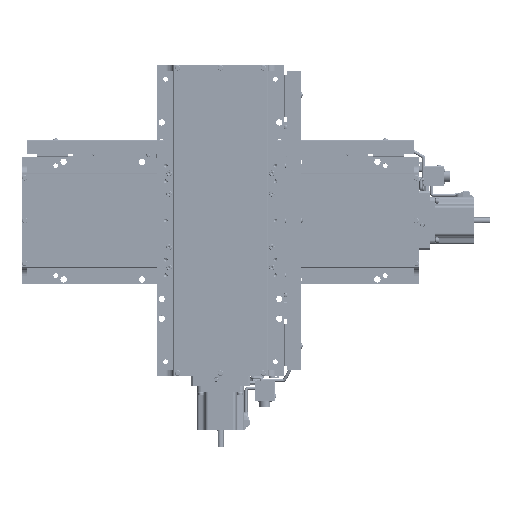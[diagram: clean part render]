
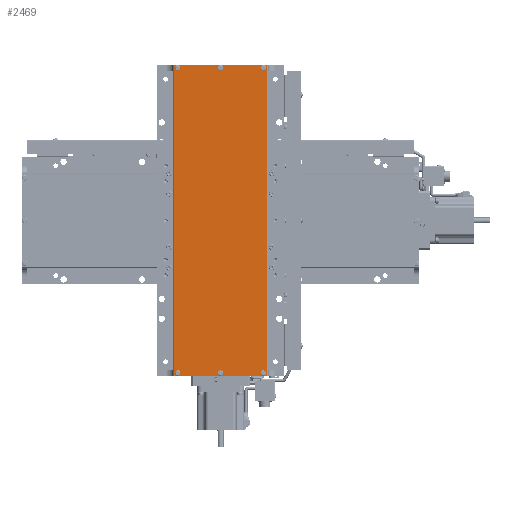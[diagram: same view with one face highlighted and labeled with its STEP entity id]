
A CAD part, top view. The second image highlights one B-rep face of the part: STEP entity #2469.
In plain terms, the highlighted planar face has unit normal (0, 0, 1).
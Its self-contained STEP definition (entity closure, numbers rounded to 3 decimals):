
#2469=ADVANCED_FACE('',(#28541,#28542,#28543,#28544,#28545,#28546,#28547),#28540,.T.);
#28540=PLANE('',#71487);
#28541=FACE_OUTER_BOUND('',#71488,.T.);
#28542=FACE_BOUND('',#71489,.T.);
#28543=FACE_BOUND('',#71490,.T.);
#28544=FACE_BOUND('',#71491,.T.);
#28545=FACE_BOUND('',#71492,.T.);
#28546=FACE_BOUND('',#71493,.T.);
#28547=FACE_BOUND('',#71494,.T.);
#71484=CARTESIAN_POINT('',(69.5,208.,125.5));
#71485=DIRECTION('',(0.,0.,1.));
#71486=DIRECTION('',(-1.,0.,0.));
#71487=AXIS2_PLACEMENT_3D('',#71484,#71485,#71486);
#71488=EDGE_LOOP('',(#102121,#102122,#102123,#102124,#102125,#102126));
#71489=EDGE_LOOP('',(#102127,#102128));
#71490=EDGE_LOOP('',(#102129,#102130));
#71491=EDGE_LOOP('',(#102131,#102132));
#71492=EDGE_LOOP('',(#102133,#102134));
#71493=EDGE_LOOP('',(#102135,#102136));
#71494=EDGE_LOOP('',(#102137,#102138));
#102121=ORIENTED_EDGE('',*,*,#121602,.T.);
#102122=ORIENTED_EDGE('',*,*,#121652,.T.);
#102123=ORIENTED_EDGE('',*,*,#121618,.T.);
#102124=ORIENTED_EDGE('',*,*,#121653,.T.);
#102125=ORIENTED_EDGE('',*,*,#121636,.F.);
#102126=ORIENTED_EDGE('',*,*,#121654,.T.);
#102127=ORIENTED_EDGE('',*,*,#121655,.F.);
#102128=ORIENTED_EDGE('',*,*,#121656,.F.);
#102129=ORIENTED_EDGE('',*,*,#121657,.F.);
#102130=ORIENTED_EDGE('',*,*,#121658,.F.);
#102131=ORIENTED_EDGE('',*,*,#121659,.F.);
#102132=ORIENTED_EDGE('',*,*,#121660,.F.);
#102133=ORIENTED_EDGE('',*,*,#121661,.F.);
#102134=ORIENTED_EDGE('',*,*,#121662,.F.);
#102135=ORIENTED_EDGE('',*,*,#121663,.F.);
#102136=ORIENTED_EDGE('',*,*,#121664,.F.);
#102137=ORIENTED_EDGE('',*,*,#121665,.F.);
#102138=ORIENTED_EDGE('',*,*,#121666,.F.);
#121602=EDGE_CURVE('',#169450,#169443,#169451,.T.);
#121618=EDGE_CURVE('',#169498,#169552,#169559,.T.);
#121636=EDGE_CURVE('',#169678,#169685,#169686,.T.);
#121652=EDGE_CURVE('',#169443,#169498,#169796,.T.);
#121653=EDGE_CURVE('',#169552,#169685,#169802,.T.);
#121654=EDGE_CURVE('',#169678,#169450,#169808,.T.);
#121655=EDGE_CURVE('',#169814,#169815,#169816,.T.);
#121656=EDGE_CURVE('',#169815,#169814,#169822,.T.);
#121657=EDGE_CURVE('',#169828,#169829,#169830,.T.);
#121658=EDGE_CURVE('',#169829,#169828,#169836,.T.);
#121659=EDGE_CURVE('',#169842,#169843,#169844,.T.);
#121660=EDGE_CURVE('',#169843,#169842,#169850,.T.);
#121661=EDGE_CURVE('',#169856,#169857,#169858,.T.);
#121662=EDGE_CURVE('',#169857,#169856,#169864,.T.);
#121663=EDGE_CURVE('',#169870,#169871,#169872,.T.);
#121664=EDGE_CURVE('',#169871,#169870,#169878,.T.);
#121665=EDGE_CURVE('',#169884,#169885,#169886,.T.);
#121666=EDGE_CURVE('',#169885,#169884,#169892,.T.);
#169443=VERTEX_POINT('',#236984);
#169450=VERTEX_POINT('',#236988);
#169451=LINE('',#236989,#236990);
#169498=VERTEX_POINT('',#237020);
#169552=VERTEX_POINT('',#237050);
#169559=LINE('',#237055,#237056);
#169678=VERTEX_POINT('',#237124);
#169685=VERTEX_POINT('',#237129);
#169686=LINE('',#237130,#237131);
#169796=LINE('',#237197,#237198);
#169802=LINE('',#237200,#237201);
#169808=LINE('',#237203,#237204);
#169814=VERTEX_POINT('',#237206);
#169815=VERTEX_POINT('',#237207);
#169816=CIRCLE('',#237211,3.495);
#169822=CIRCLE('',#237215,3.495);
#169828=VERTEX_POINT('',#237216);
#169829=VERTEX_POINT('',#237217);
#169830=CIRCLE('',#237221,3.495);
#169836=CIRCLE('',#237225,3.495);
#169842=VERTEX_POINT('',#237226);
#169843=VERTEX_POINT('',#237227);
#169844=CIRCLE('',#237231,3.495);
#169850=CIRCLE('',#237235,3.495);
#169856=VERTEX_POINT('',#237236);
#169857=VERTEX_POINT('',#237237);
#169858=CIRCLE('',#237241,3.495);
#169864=CIRCLE('',#237245,3.495);
#169870=VERTEX_POINT('',#237246);
#169871=VERTEX_POINT('',#237247);
#169872=CIRCLE('',#237251,3.495);
#169878=CIRCLE('',#237255,3.495);
#169884=VERTEX_POINT('',#237256);
#169885=VERTEX_POINT('',#237257);
#169886=CIRCLE('',#237261,3.495);
#169892=CIRCLE('',#237265,3.495);
#236984=CARTESIAN_POINT('',(-35.,-198.,125.5));
#236988=CARTESIAN_POINT('',(-59.5,-198.,125.5));
#236989=CARTESIAN_POINT('',(-59.5,-198.,125.5));
#236990=VECTOR('',#236991,24.5);
#236991=DIRECTION('',(1.,0.,0.));
#237020=CARTESIAN_POINT('',(35.,-198.,125.5));
#237050=CARTESIAN_POINT('',(59.5,-198.,125.5));
#237055=CARTESIAN_POINT('',(35.,-198.,125.5));
#237056=VECTOR('',#237057,24.5);
#237057=DIRECTION('',(1.,0.,0.));
#237124=CARTESIAN_POINT('',(-59.5,198.,125.5));
#237129=CARTESIAN_POINT('',(59.5,198.,125.5));
#237130=CARTESIAN_POINT('',(-59.5,198.,125.5));
#237131=VECTOR('',#237132,119.);
#237132=DIRECTION('',(1.,0.,0.));
#237197=CARTESIAN_POINT('',(-35.,-198.,125.5));
#237198=VECTOR('',#237199,70.);
#237199=DIRECTION('',(1.,0.,0.));
#237200=CARTESIAN_POINT('',(59.5,-198.,125.5));
#237201=VECTOR('',#237202,396.);
#237202=DIRECTION('',(0.,1.,0.));
#237203=CARTESIAN_POINT('',(-59.5,198.,125.5));
#237204=VECTOR('',#237205,396.);
#237205=DIRECTION('',(0.,-1.,0.));
#237206=CARTESIAN_POINT('',(3.495,-194.5,125.5));
#237207=CARTESIAN_POINT('',(-3.495,-194.5,125.5));
#237208=CARTESIAN_POINT('',(0.,-194.5,125.5));
#237209=DIRECTION('',(0.,0.,1.));
#237210=DIRECTION('',(-1.,0.,0.));
#237211=AXIS2_PLACEMENT_3D('',#237208,#237209,#237210);
#237212=CARTESIAN_POINT('',(0.,-194.5,125.5));
#237213=DIRECTION('',(0.,0.,1.));
#237214=DIRECTION('',(-1.,0.,0.));
#237215=AXIS2_PLACEMENT_3D('',#237212,#237213,#237214);
#237216=CARTESIAN_POINT('',(-51.005,-194.5,125.5));
#237217=CARTESIAN_POINT('',(-57.995,-194.5,125.5));
#237218=CARTESIAN_POINT('',(-54.5,-194.5,125.5));
#237219=DIRECTION('',(0.,0.,1.));
#237220=DIRECTION('',(-1.,0.,0.));
#237221=AXIS2_PLACEMENT_3D('',#237218,#237219,#237220);
#237222=CARTESIAN_POINT('',(-54.5,-194.5,125.5));
#237223=DIRECTION('',(0.,0.,1.));
#237224=DIRECTION('',(-1.,0.,0.));
#237225=AXIS2_PLACEMENT_3D('',#237222,#237223,#237224);
#237226=CARTESIAN_POINT('',(57.995,194.5,125.5));
#237227=CARTESIAN_POINT('',(51.005,194.5,125.5));
#237228=CARTESIAN_POINT('',(54.5,194.5,125.5));
#237229=DIRECTION('',(0.,0.,1.));
#237230=DIRECTION('',(-1.,0.,0.));
#237231=AXIS2_PLACEMENT_3D('',#237228,#237229,#237230);
#237232=CARTESIAN_POINT('',(54.5,194.5,125.5));
#237233=DIRECTION('',(0.,0.,1.));
#237234=DIRECTION('',(-1.,0.,0.));
#237235=AXIS2_PLACEMENT_3D('',#237232,#237233,#237234);
#237236=CARTESIAN_POINT('',(3.495,194.5,125.5));
#237237=CARTESIAN_POINT('',(-3.495,194.5,125.5));
#237238=CARTESIAN_POINT('',(0.,194.5,125.5));
#237239=DIRECTION('',(0.,0.,1.));
#237240=DIRECTION('',(-1.,0.,0.));
#237241=AXIS2_PLACEMENT_3D('',#237238,#237239,#237240);
#237242=CARTESIAN_POINT('',(0.,194.5,125.5));
#237243=DIRECTION('',(0.,0.,1.));
#237244=DIRECTION('',(-1.,0.,0.));
#237245=AXIS2_PLACEMENT_3D('',#237242,#237243,#237244);
#237246=CARTESIAN_POINT('',(-51.005,194.5,125.5));
#237247=CARTESIAN_POINT('',(-57.995,194.5,125.5));
#237248=CARTESIAN_POINT('',(-54.5,194.5,125.5));
#237249=DIRECTION('',(0.,0.,1.));
#237250=DIRECTION('',(-1.,0.,0.));
#237251=AXIS2_PLACEMENT_3D('',#237248,#237249,#237250);
#237252=CARTESIAN_POINT('',(-54.5,194.5,125.5));
#237253=DIRECTION('',(0.,0.,1.));
#237254=DIRECTION('',(-1.,0.,0.));
#237255=AXIS2_PLACEMENT_3D('',#237252,#237253,#237254);
#237256=CARTESIAN_POINT('',(57.995,-194.5,125.5));
#237257=CARTESIAN_POINT('',(51.005,-194.5,125.5));
#237258=CARTESIAN_POINT('',(54.5,-194.5,125.5));
#237259=DIRECTION('',(0.,0.,1.));
#237260=DIRECTION('',(-1.,0.,0.));
#237261=AXIS2_PLACEMENT_3D('',#237258,#237259,#237260);
#237262=CARTESIAN_POINT('',(54.5,-194.5,125.5));
#237263=DIRECTION('',(0.,0.,1.));
#237264=DIRECTION('',(-1.,0.,0.));
#237265=AXIS2_PLACEMENT_3D('',#237262,#237263,#237264);
